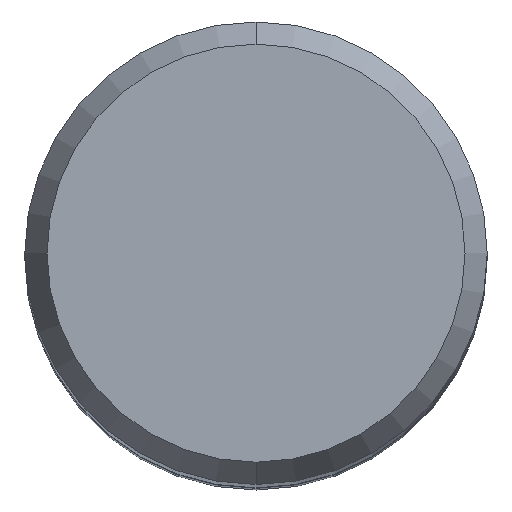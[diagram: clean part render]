
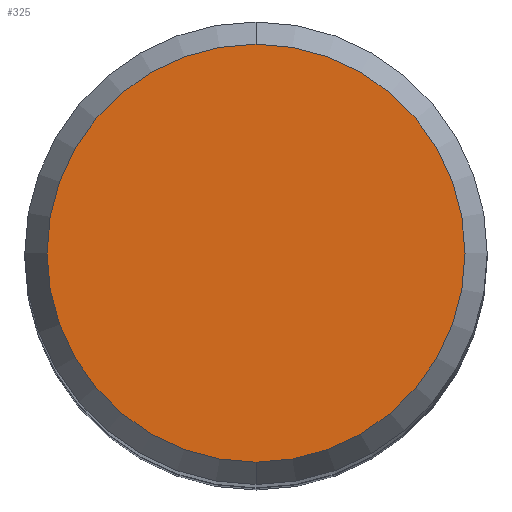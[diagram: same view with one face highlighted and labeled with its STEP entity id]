
A CAD part, top view. The second image highlights one B-rep face of the part: STEP entity #325.
In plain terms, the highlighted planar face has unit normal (0, 0, 1).
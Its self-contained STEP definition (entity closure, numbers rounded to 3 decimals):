
#267=VERTEX_POINT('',#593);
#299=EDGE_CURVE('',#375,#267,#626,.T.);
#325=ADVANCED_FACE('',(#655),#656,.T.);
#359=EDGE_CURVE('',#267,#375,#691,.T.);
#375=VERTEX_POINT('',#710);
#593=CARTESIAN_POINT('',(0.0,5.423,0.0));
#626=CIRCLE('',#1117,5.423);
#655=FACE_OUTER_BOUND('',#1181,.T.);
#656=PLANE('',#1182);
#691=CIRCLE('',#1308,5.423);
#710=CARTESIAN_POINT('',(0.,-5.423,0.0));
#1117=AXIS2_PLACEMENT_3D('',#1674,#1675,#1676);
#1181=EDGE_LOOP('',(#1706,#1707));
#1182=AXIS2_PLACEMENT_3D('',#1708,#1709,#1710);
#1308=AXIS2_PLACEMENT_3D('',#1737,#1738,#1739);
#1674=CARTESIAN_POINT('',(0.0,0.0,0.0));
#1675=DIRECTION('',(0.0,0.0,-1.0));
#1676=DIRECTION('',(0.0,1.0,0.0));
#1706=ORIENTED_EDGE('',*,*,#359,.F.);
#1707=ORIENTED_EDGE('',*,*,#299,.F.);
#1708=CARTESIAN_POINT('',(0.0,2.711,0.0));
#1709=DIRECTION('',(-0.0,0.0,1.0));
#1710=DIRECTION('',(0.0,-1.0,0.0));
#1737=CARTESIAN_POINT('',(0.0,0.0,0.0));
#1738=DIRECTION('',(0.0,0.0,-1.0));
#1739=DIRECTION('',(0.0,1.0,0.0));
